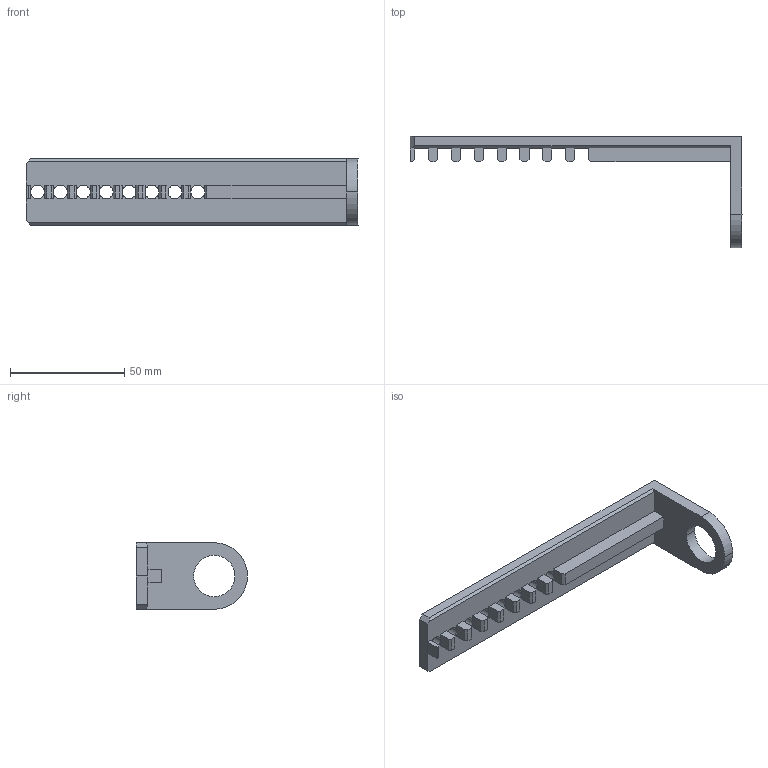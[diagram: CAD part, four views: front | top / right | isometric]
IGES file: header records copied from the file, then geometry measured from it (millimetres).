
Global section: file name: Development_Halo_Spigot_Drill_New_STEMRACINGSPAIN; native system: Autodesk Inventor 2026; preprocessor: unknown; author:  ; organization:  ; date: 20260903.013121; units: millimetre
Bounding box: 145 x 48.5 x 29 mm (x, y, z)
Volume: 27546.7 mm3; surface area: 14483.1 mm2
Topology: 1 solids, 1 shells, 1735 faces, 4900 edges, 3268 vertices
Faces by surface type: bspline 1735
